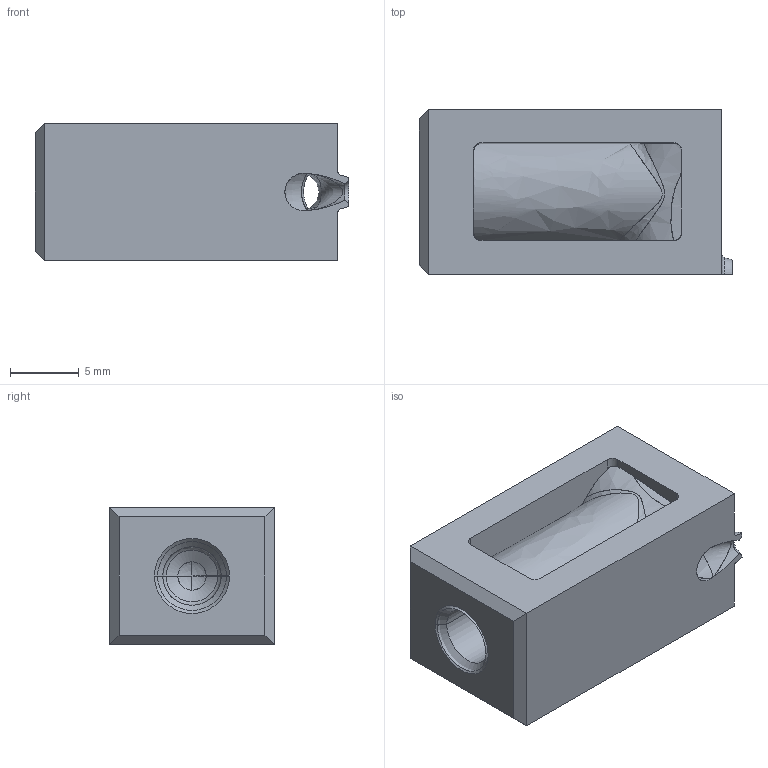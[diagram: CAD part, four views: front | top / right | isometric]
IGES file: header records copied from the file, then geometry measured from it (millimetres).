
Start section: START RECORD GO HERE.
Global section: file name: tgs12-12-s2.igs; native system: DASSAULT SYSTEMES CATIA V5 R20 - www.3ds.com; preprocessor: CATIA Version 5 Release 20 ; author: Utente; organization: NB04-ASUS; date: 20200418.090011; units: millimetre
Bounding box: 22.8 x 12 x 10 mm (x, y, z)
Surface area: 1877.2 mm2 (no closed solid volume)
Topology: 0 solids, 0 shells, 71 faces, 430 edges, 424 vertices
Faces by surface type: revolution 36, plane 21, bspline 14
